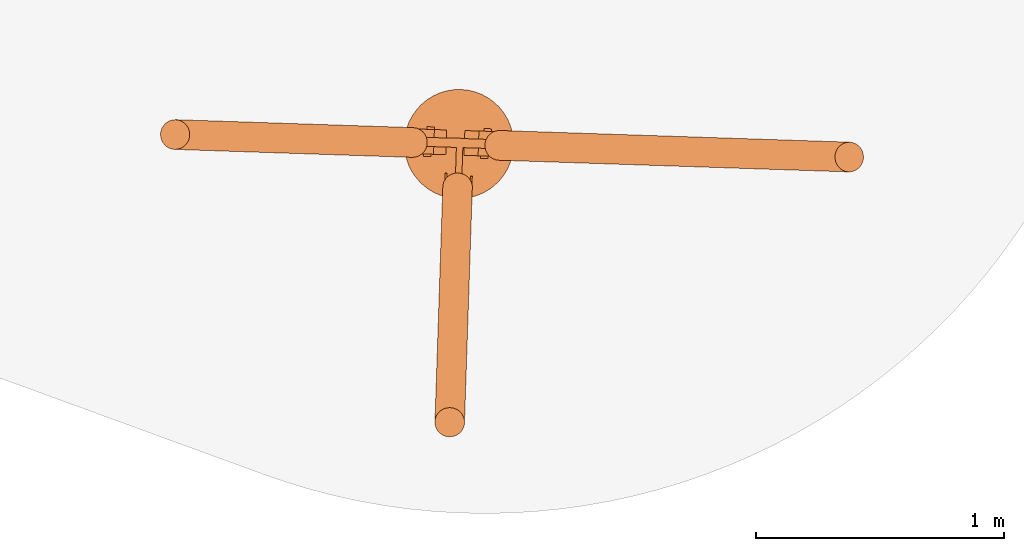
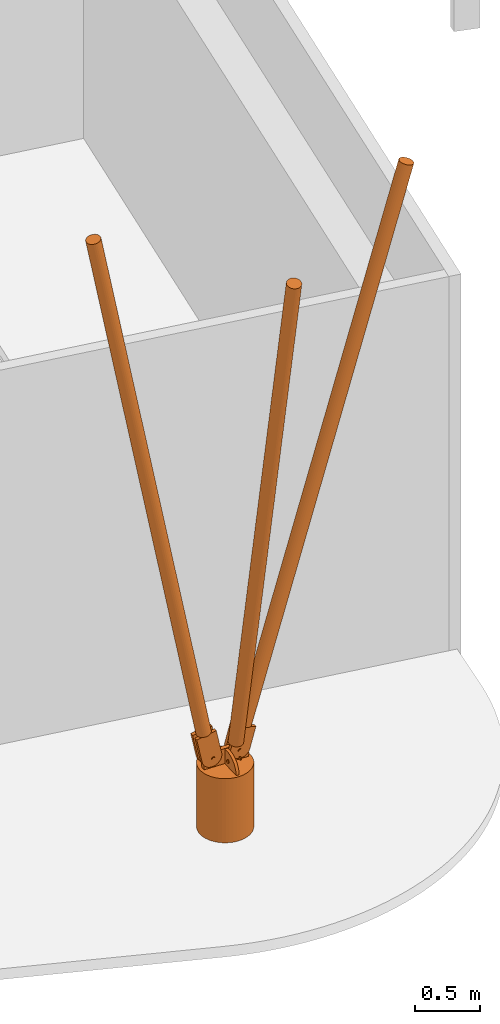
# One storey, part 21 of 21: 1 proxy.
"""IFC2X3 building model written with IfcOpenShell, lengths in millimetres."""

import ifcopenshell
import ifcopenshell.guid

model = None  # the IFC model being written
_history = None  # IfcOwnerHistory: only IFC2X3 demands one
_inside = {}  # id of a spatial element -> (the spatial element, [elements in it])
_under = {}  # id of a project, library or spatial element -> (it, [spatial elements below it])
_declared = {}  # id of a project -> (the project, [libraries it declares])
_typed = {}  # id of a type object -> (the type object, [elements of that type])
_made_of = {}  # id of a material, layer set ... -> (it, [elements and type objects made of it])


def new_model(schema):
    """Start an empty IFC model of exactly this schema.

    Asked for "IFC4X3", IfcOpenShell would pick the latest addendum, in which some entities
    have other attributes; the version numbers below select the first issue.
    IFC2X3 requires an IfcOwnerHistory on every rooted entity: one is made here for all.
    """
    global model, _history
    if schema == "IFC4X3":
        model = ifcopenshell.file(schema_version=(4, 3, 0, 0))
    else:
        model = ifcopenshell.file(schema=schema)
    _inside.clear()
    _under.clear()
    _declared.clear()
    _typed.clear()
    _made_of.clear()
    _history = None
    if model.schema == "IFC2X3":
        org = make("IfcOrganization", Name="unknown")
        user = make(
            "IfcPersonAndOrganization",
            ThePerson=make("IfcPerson", FamilyName="unknown"),
            TheOrganization=org,
        )
        app = make(
            "IfcApplication",
            ApplicationDeveloper=org,
            Version="unknown",
            ApplicationFullName="unknown",
            ApplicationIdentifier="unknown",
        )
        _history = make(
            "IfcOwnerHistory",
            OwningUser=user,
            OwningApplication=app,
            ChangeAction="ADDED",
            CreationDate=0,
        )
    return model


def make(cls, **values):
    """One entity of the class cls with the attributes given. An attribute that is None is left unset."""
    return model.create_entity(
        cls, **{name: value for name, value in values.items() if value is not None}
    )


def entity(cls, *values):
    """Any entity or typed value of the class cls, its attributes in the order of the schema. None: left unset."""
    e = model.create_entity(cls)
    for i, value in enumerate(values):
        if value is not None:
            e[i] = value
    return e


def rooted(cls, **values):
    """An entity with a GlobalId (a new one), such as an element, a storey or a relation."""
    return make(cls, GlobalId=ifcopenshell.guid.new(), OwnerHistory=_history, **values)


def si_unit(unit_type, name, prefix=None):
    """IfcSIUnit, for example si_unit("LENGTHUNIT", "METRE", prefix="MILLI")."""
    return make("IfcSIUnit", UnitType=unit_type, Prefix=prefix, Name=name)


def converted_unit(unit_type, name, factor, base, dimensions=None, offset=None):
    """IfcConversionBasedUnit, such as the inch: factor (a typed value) times the base unit."""
    return make(
        "IfcConversionBasedUnit"
        if offset is None
        else "IfcConversionBasedUnitWithOffset",
        ConversionOffset=offset,
        Dimensions=None
        if dimensions is None
        else entity("IfcDimensionalExponents", *dimensions),
        UnitType=unit_type,
        Name=name,
        ConversionFactor=make(
            "IfcMeasureWithUnit", ValueComponent=factor, UnitComponent=base
        ),
    )


def derived_unit(unit_type, elements):
    """IfcDerivedUnit: a product of units, each with its exponent."""
    return make(
        "IfcDerivedUnit",
        Elements=[
            make("IfcDerivedUnitElement", Unit=unit, Exponent=power)
            for unit, power in elements
        ],
        UnitType=unit_type,
    )


def assignment(units):
    """IfcUnitAssignment: the units of a project."""
    return None if units is None else make("IfcUnitAssignment", Units=units)


def point(xyz):
    """IfcCartesianPoint."""
    return None if xyz is None else make("IfcCartesianPoint", Coordinates=xyz)


def direction(xyz):
    """IfcDirection."""
    return None if xyz is None else make("IfcDirection", DirectionRatios=xyz)


def frame(location, z_axis=None, x_axis=None):
    """IfcAxis2Placement3D, a coordinate frame: its origin and axes. An axis left out is left unset."""
    return make(
        "IfcAxis2Placement3D",
        Location=point(location),
        Axis=direction(z_axis),
        RefDirection=direction(x_axis),
    )


def frame_2d(location, x_axis=None):
    """IfcAxis2Placement2D, a coordinate frame in the plane: its origin and x axis."""
    return make(
        "IfcAxis2Placement2D", Location=point(location), RefDirection=direction(x_axis)
    )


def origin():
    """The frame at (0, 0, 0) with its axes left unset."""
    return frame((0.0, 0.0, 0.0))


def origin_2d_with_axis():
    """The frame at (0, 0) in the plane with the x axis (1, 0) written out."""
    return frame_2d((0.0, 0.0), x_axis=(1.0, 0.0))


def place(relative_to, where):
    """IfcLocalPlacement: puts the frame where relative to a parent placement (None: the world)."""
    return make(
        "IfcLocalPlacement", PlacementRelTo=relative_to, RelativePlacement=where
    )


def context(
    kind, dimensions, precision=None, world=None, true_north=None, identifier=None
):
    """IfcGeometricRepresentationContext, for example the 3D "Model" context."""
    return make(
        "IfcGeometricRepresentationContext",
        ContextIdentifier=identifier,
        ContextType=kind,
        CoordinateSpaceDimension=dimensions,
        Precision=precision,
        WorldCoordinateSystem=world,
        TrueNorth=true_north,
    )


def subcontext(parent, identifier, kind, view, scale=None):
    """IfcGeometricRepresentationSubContext, for example "Body" below "Model"."""
    return make(
        "IfcGeometricRepresentationSubContext",
        ContextIdentifier=identifier,
        ContextType=kind,
        ParentContext=parent,
        TargetScale=scale,
        TargetView=view,
    )


def project(units=None, contexts=None):
    """IfcProject with its units and contexts."""
    return rooted(
        "IfcProject",
        Name="project",
        RepresentationContexts=contexts,
        UnitsInContext=assignment(units),
    )


def spatial(cls, under=None, at=None, **own):
    """A site, building, storey or space (cls), placed at a placement, below another one or the project."""
    s = rooted(cls, ObjectPlacement=at, **own)
    if under is not None:
        _under.setdefault(under.id(), (under, []))[1].append(s)
    return s


def polyline(points):
    """IfcPolyline through the points."""
    return make("IfcPolyline", Points=[point(p) for p in points])


def circle_curve(where, radius):
    """IfcCircle in the frame where."""
    return make("IfcCircle", Position=where, Radius=radius)


def parameter(value):
    """IfcParameterValue: where a trimmed curve begins or ends, as a parameter of its basis curve."""
    return model.create_entity("IfcParameterValue", value)


def trimmed(basis, trim1, trim2, sense, master):
    """IfcTrimmedCurve: the piece of a basis curve between two trims."""
    return make(
        "IfcTrimmedCurve",
        BasisCurve=basis,
        Trim1=trim1,
        Trim2=trim2,
        SenseAgreement=sense,
        MasterRepresentation=master,
    )


def segment(curve, same_sense, transition):
    """IfcCompositeCurveSegment."""
    return make(
        "IfcCompositeCurveSegment",
        Transition=transition,
        SameSense=same_sense,
        ParentCurve=curve,
    )


def composite_curve(segments, self_intersect=None):
    """IfcCompositeCurve: segments joined end to end."""
    return make("IfcCompositeCurve", Segments=segments, SelfIntersect=self_intersect)


def profile(cls, at=None, kind="AREA", **sizes):
    """A parametric profile (cls). Its sizes go by their IFC names, for example OverallWidth=200.0."""
    return make(cls, ProfileType=kind, Position=at, **sizes)


def circle(**sizes):
    """IfcCircleProfileDef."""
    return profile("IfcCircleProfileDef", **sizes)


def outline(outer, holes=None, kind="AREA"):
    """IfcArbitraryClosedProfileDef: a profile drawn as a closed curve; with holes, ...WithVoids."""
    if holes is None:
        return make("IfcArbitraryClosedProfileDef", ProfileType=kind, OuterCurve=outer)
    return make(
        "IfcArbitraryProfileDefWithVoids",
        ProfileType=kind,
        OuterCurve=outer,
        InnerCurves=holes,
    )


def extrude(swept, where, along, depth):
    """IfcExtrudedAreaSolid: the profile swept, set in the frame where, extruded along a direction by depth."""
    return make(
        "IfcExtrudedAreaSolid",
        SweptArea=swept,
        Position=where,
        ExtrudedDirection=direction(along),
        Depth=depth,
    )


def shape(context_of_items, identifier, shape_type, items):
    """IfcShapeRepresentation: the items that make up one representation, for example the "Body"."""
    return make(
        "IfcShapeRepresentation",
        ContextOfItems=context_of_items,
        RepresentationIdentifier=identifier,
        RepresentationType=shape_type,
        Items=items,
    )


def source(mapping_origin, context_of_items, identifier, shape_type, items):
    """IfcRepresentationMap: a shape defined once, which mapped items show again and again."""
    return make(
        "IfcRepresentationMap",
        MappingOrigin=mapping_origin,
        MappedRepresentation=shape(context_of_items, identifier, shape_type, items),
    )


def transform(
    local_origin,
    x_axis=None,
    y_axis=None,
    z_axis=None,
    scale=None,
    scale2=None,
    scale3=None,
    uniform=True,
):
    """IfcCartesianTransformationOperator3D, or its non-uniform kind. x_axis, y_axis, z_axis: its Axis1, 2, 3."""
    if uniform:
        return make(
            "IfcCartesianTransformationOperator3D",
            Axis1=direction(x_axis),
            Axis2=direction(y_axis),
            LocalOrigin=point(local_origin),
            Scale=scale,
            Axis3=direction(z_axis),
        )
    return make(
        "IfcCartesianTransformationOperator3DnonUniform",
        Axis1=direction(x_axis),
        Axis2=direction(y_axis),
        LocalOrigin=point(local_origin),
        Scale=scale,
        Axis3=direction(z_axis),
        Scale2=scale2,
        Scale3=scale3,
    )


def mapped(mapping_source, mapping_target):
    """IfcMappedItem: shows the shape of a source again, moved by a transform."""
    return make(
        "IfcMappedItem", MappingSource=mapping_source, MappingTarget=mapping_target
    )


def material(Name=None, Category=None):
    """IfcMaterial."""
    return make("IfcMaterial", Name=Name, Category=Category)


def material_list(materials):
    """IfcMaterialList."""
    return make("IfcMaterialList", Materials=materials)


def made_of(thing, what):
    """Note that an element or type object is made of a material, layer set ...; save() writes the relation."""
    if what is not None:
        _made_of.setdefault(what.id(), (what, []))[1].append(thing)
    return thing


def type_object(cls, material=None, **own):
    """A type object (cls), such as IfcWallType, which elements share."""
    return made_of(rooted(cls, **own), material)


def type_shapes(of_type, sources):
    """Give a type object the sources (RepresentationMaps) that its elements show as mapped items."""
    of_type.RepresentationMaps = sources


def element(
    cls,
    number,
    at=None,
    inside=None,
    cuts=None,
    type_object=None,
    material=None,
    context=None,
    identifier="Body",
    shape_type=None,
    held_by="IfcProductDefinitionShape",
    body=None,
    shapes=None,
    **own,
):
    """One element of the class cls, such as IfcWall. Its Tag is "e" and its number.

    at: its placement. inside: the storey or other place that contains it. cuts: it is an
    opening in that element (IfcRelVoidsElement). A single representation is given by context,
    identifier, shape_type and body (its items); several are given by shapes. held_by: the class
    of the entity that holds the representations. save() writes the other relations.
    """
    e = rooted(cls, Tag="e%d" % number, ObjectPlacement=at, **own)
    if body is not None:
        shapes = [shape(context, identifier, shape_type, body)]
    if shapes is not None:
        e.Representation = make(held_by, Representations=shapes)
    if inside is not None:
        _inside.setdefault(inside.id(), (inside, []))[1].append(e)
    if cuts is not None:
        rooted(
            "IfcRelVoidsElement", RelatingBuildingElement=cuts, RelatedOpeningElement=e
        )
    if type_object is not None:
        _typed.setdefault(type_object.id(), (type_object, []))[1].append(e)
    return made_of(e, material)


def aggregate(whole, parts):
    """IfcRelAggregates: a whole, such as a stair, and the parts it consists of."""
    return rooted("IfcRelAggregates", RelatingObject=whole, RelatedObjects=parts)


def save(model, path):
    """Write the relations noted so far, then the file.

    IfcRelAggregates (storeys below a building ...), IfcRelContainedInSpatialStructure (elements
    in a storey), IfcRelDefinesByType, IfcRelAssociatesMaterial and IfcRelDeclares: one each for
    every whole, place, type object, material and project.
    """
    for whole, parts in _under.values():
        aggregate(whole, parts)
    for where, things in _inside.values():
        rooted(
            "IfcRelContainedInSpatialStructure",
            RelatedElements=things,
            RelatingStructure=where,
        )
    for kind, things in _typed.values():
        rooted("IfcRelDefinesByType", RelatedObjects=things, RelatingType=kind)
    for what, things in _made_of.values():
        rooted("IfcRelAssociatesMaterial", RelatedObjects=things, RelatingMaterial=what)
    for by, libraries in _declared.values():
        rooted("IfcRelDeclares", RelatingContext=by, RelatedDefinitions=libraries)
    model.write(path)


model = new_model("IFC2X3")

# Units and contexts
model_context = context("Model", 3, precision=0.01, world=origin(), true_north=direction((6.12303176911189e-17, 1.0)))
body_context = subcontext(model_context, "Body", "Model", "MODEL_VIEW")
ifc_project = project(units=[si_unit("LENGTHUNIT", "METRE", prefix="MILLI"), si_unit("AREAUNIT", "SQUARE_METRE"), si_unit("VOLUMEUNIT", "CUBIC_METRE"), converted_unit("PLANEANGLEUNIT", "DEGREE", entity("IfcRatioMeasure", 0.0174532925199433), si_unit("PLANEANGLEUNIT", "RADIAN"), dimensions=[0, 0, 0, 0, 0, 0, 0]), si_unit("MASSUNIT", "GRAM", prefix="KILO"), derived_unit("MASSDENSITYUNIT", [(si_unit("MASSUNIT", "GRAM", prefix="KILO"), 1), (si_unit("LENGTHUNIT", "METRE"), -3)]), si_unit("TIMEUNIT", "SECOND"), si_unit("FREQUENCYUNIT", "HERTZ"), si_unit("THERMODYNAMICTEMPERATUREUNIT", "DEGREE_CELSIUS"), derived_unit("THERMALTRANSMITTANCEUNIT", [(si_unit("MASSUNIT", "GRAM", prefix="KILO"), 1), (si_unit("THERMODYNAMICTEMPERATUREUNIT", "KELVIN"), -1), (si_unit("TIMEUNIT", "SECOND"), -3)]), derived_unit("VOLUMETRICFLOWRATEUNIT", [(si_unit("LENGTHUNIT", "METRE"), 3), (si_unit("TIMEUNIT", "SECOND"), -1)]), si_unit("ELECTRICCURRENTUNIT", "AMPERE"), si_unit("ELECTRICVOLTAGEUNIT", "VOLT"), si_unit("POWERUNIT", "WATT"), si_unit("FORCEUNIT", "NEWTON", prefix="KILO"), si_unit("ILLUMINANCEUNIT", "LUX"), si_unit("LUMINOUSFLUXUNIT", "LUMEN"), si_unit("LUMINOUSINTENSITYUNIT", "CANDELA"), derived_unit("USERDEFINED", [(si_unit("MASSUNIT", "GRAM", prefix="KILO"), -1), (si_unit("LENGTHUNIT", "METRE"), -2), (si_unit("TIMEUNIT", "SECOND"), 3), (si_unit("LUMINOUSFLUXUNIT", "LUMEN"), 1)]), derived_unit("LINEARVELOCITYUNIT", [(si_unit("LENGTHUNIT", "METRE"), 1), (si_unit("TIMEUNIT", "SECOND"), -1)]), si_unit("PRESSUREUNIT", "PASCAL"), derived_unit("USERDEFINED", [(si_unit("LENGTHUNIT", "METRE"), -2), (si_unit("MASSUNIT", "GRAM", prefix="KILO"), 1), (si_unit("TIMEUNIT", "SECOND"), -2)])], contexts=[model_context])

# Site, building, storey
site_placement = place(None, origin())
site = spatial("IfcSite", under=ifc_project, at=site_placement, Name="<Kadaster Gemeente>;<Kadaster nummer>;<Kadaster sectie>", CompositionType="ELEMENT")
building_placement = place(site_placement, origin())
building = spatial("IfcBuilding", under=site, at=building_placement, Name="JRCZ Middelburg", CompositionType="ELEMENT")
storey_placement = place(building_placement, origin())
storey = spatial("IfcBuildingStorey", under=building, at=storey_placement, Name="00 begane grond", CompositionType="ELEMENT", Elevation=0.0)

# Proxy
ifc_material_1 = material(Name="Staal")
ifc_material_2 = material(Name="Beton")
ifc_material_list_1 = material_list([ifc_material_1, ifc_material_2])
ifc_material_list_2 = material_list([ifc_material_1, ifc_material_2])
building_element_proxy_type = type_object("IfcBuildingElementProxyType", Name="Kolommen", PredefinedType="NOTDEFINED", material=ifc_material_list_2)
shared_shape = source(origin(), body_context, "Body", "SweptSolid", [
    extrude(outline(composite_curve([segment(polyline([(-77.5219151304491, -100.362729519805), (77.5725642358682, -100.362729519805)]), True, "CONTINUOUS"), segment(polyline([(77.5725642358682, -100.362729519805), (77.5725642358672, 99.0100214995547)]), True, "CONTINUOUS"), segment(trimmed(circle_curve(frame_2d((-0.0489361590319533, 99.0100214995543), x_axis=(-0.981627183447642, -0.190808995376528)), 77.5202021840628), [parameter(169.000000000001)], [parameter(346.999999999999)], True, "PARAMETER"), True, "CONTINUOUS"), segment(polyline([(-77.5219151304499, 101.715437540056), (-77.5219151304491, -100.362729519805)]), True, "CONTINUOUS")], self_intersect=False)), frame((-157.047506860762, -50.0, 804.451228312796), z_axis=(0.0, 1.0, 0.0), x_axis=(0.981627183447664, 0.0, 0.190808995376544)), (0.0, 0.0, 1.0), 33.9987515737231),
    extrude(circle(Radius=15.0, at=origin_2d_with_axis()), frame((-54.4696170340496, -103.594118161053, 706.16949538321), z_axis=(1.0, 0.0, 0.0), x_axis=(0.0, -1.0, 0.0)), (0.0, 0.0, 1.0), 9.59587154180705),
    extrude(circle(Radius=15.0, at=origin_2d_with_axis()), frame((-54.4696170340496, 126.405881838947, 706.169495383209), z_axis=(1.0, 0.0, 0.0), x_axis=(0.0, -1.0, 0.0)), (0.0, 0.0, 1.0), 9.59587154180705),
    extrude(circle(Radius=15.0, at=origin_2d_with_axis()), frame((55.0, -113.800552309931, 720.960203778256), z_axis=(1.0, 0.0, 0.0), x_axis=(0.0, -1.0, 0.0)), (0.0, 0.0, 1.0), 10.668628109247),
    extrude(circle(Radius=15.0, at=origin_2d_with_axis()), frame((55.0, 116.199447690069, 720.960203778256), z_axis=(1.0, 0.0, 0.0), x_axis=(0.0, -1.0, 0.0)), (0.0, 0.0, 1.0), 10.668628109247),
    extrude(outline(composite_curve([segment(polyline([(-103.664111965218, -86.2493471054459), (105.169599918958, -86.2493471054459)]), True, "CONTINUOUS"), segment(polyline([(105.169599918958, -86.2493471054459), (102.158624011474, 86.2493471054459)]), True, "CONTINUOUS"), segment(polyline([(102.158624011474, 86.2493471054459), (-103.664111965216, 86.2493471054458)]), True, "CONTINUOUS"), segment(trimmed(circle_curve(frame_2d((-95.2770692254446, 0.0), x_axis=(-0.207911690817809, 0.978147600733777)), 86.6561732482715), [parameter(353.554082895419)], [parameter(162.445917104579)], True, "PARAMETER"), True, "CONTINUOUS")], self_intersect=False)), frame((22.5362302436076, -133.676471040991, 807.841665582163), z_axis=(1.0, 0.0, 0.0), x_axis=(0.0, -0.266523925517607, 0.963828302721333)), (0.0, 0.0, 1.0), 32.4637697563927),
    extrude(outline(composite_curve([segment(polyline([(-118.666408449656, -86.2493471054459), (120.171896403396, -86.249347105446)]), True, "CONTINUOUS"), segment(polyline([(120.171896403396, -86.249347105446), (117.160920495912, 86.2493471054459)]), True, "CONTINUOUS"), segment(polyline([(117.160920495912, 86.2493471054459), (-118.666408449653, 86.2493471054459)]), True, "CONTINUOUS"), segment(trimmed(circle_curve(frame_2d((-110.279365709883, 0.0), x_axis=(-0.207911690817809, 0.978147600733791)), 86.6561732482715), [parameter(353.554082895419)], [parameter(162.445917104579)], True, "PARAMETER"), True, "CONTINUOUS")], self_intersect=False)), frame((22.5362302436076, 161.188523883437, 824.784514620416), z_axis=(1.0, 0.0, 0.0), x_axis=(0.0, 0.207911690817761, 0.978147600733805)), (0.0, 0.0, 1.0), 32.4637697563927),
    extrude(outline(composite_curve([segment(polyline([(-103.671089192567, -86.2493471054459), (105.176577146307, -86.2493471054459)]), True, "CONTINUOUS"), segment(polyline([(105.176577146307, -86.2493471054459), (102.165601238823, 86.2493471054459)]), True, "CONTINUOUS"), segment(polyline([(102.165601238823, 86.2493471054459), (-103.671089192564, 86.249347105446)]), True, "CONTINUOUS"), segment(trimmed(circle_curve(frame_2d((-95.2840464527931, 0.0), x_axis=(-0.207911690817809, 0.978147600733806)), 86.6561732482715), [parameter(353.554082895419)], [parameter(162.445917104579)], True, "PARAMETER"), True, "CONTINUOUS")], self_intersect=False)), frame((-44.8737454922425, -133.678330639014, 807.848390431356), z_axis=(1.0, 0.0, 0.0), x_axis=(0.0, -0.266523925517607, 0.963828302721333)), (0.0, 0.0, 1.0), 30.7614069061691),
    extrude(outline(composite_curve([segment(polyline([(-118.666408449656, -86.2493471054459), (120.171896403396, -86.249347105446)]), True, "CONTINUOUS"), segment(polyline([(120.171896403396, -86.249347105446), (117.160920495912, 86.2493471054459)]), True, "CONTINUOUS"), segment(polyline([(117.160920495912, 86.2493471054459), (-118.666408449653, 86.2493471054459)]), True, "CONTINUOUS"), segment(trimmed(circle_curve(frame_2d((-110.279365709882, 0.0), x_axis=(-0.207911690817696, 0.97814760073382)), 86.6561732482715), [parameter(353.554082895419)], [parameter(162.445917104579)], True, "PARAMETER"), True, "CONTINUOUS")], self_intersect=False)), frame((-44.8737454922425, 161.188523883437, 824.784514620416), z_axis=(1.0, 0.0, 0.0), x_axis=(0.0, 0.207911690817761, 0.978147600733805)), (0.0, 0.0, 1.0), 30.7614069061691),
    extrude(outline(composite_curve([segment(trimmed(circle_curve(frame_2d((-81.8584253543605, 43.7085069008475), x_axis=(1.0, 0.0)), 113.708506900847), [parameter(166.631188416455)], [parameter(270.0)], True, "PARAMETER"), True, "CONTINUOUS"), segment(polyline([(-81.8584253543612, -70.0), (81.8584253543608, -70.0)]), True, "CONTINUOUS"), segment(trimmed(circle_curve(frame_2d((81.8584253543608, 43.7085069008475), x_axis=(-1.0, 0.0)), 113.708506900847), [parameter(90.0000000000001)], [parameter(193.368811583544)], True, "PARAMETER"), True, "CONTINUOUS"), segment(polyline([(192.485645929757, 70.0), (-192.485645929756, 70.0)]), True, "CONTINUOUS")], self_intersect=False)), frame((-14.1123385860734, -2.97583321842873, 670.0), z_axis=(1.0, 0.0, 0.0), x_axis=(0.0, -1.0, 0.0)), (0.0, 0.0, 1.0), 37.5362302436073),
    extrude(circle(Radius=60.0, at=frame_2d((8.626698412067e-16, -2.59703140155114e-13), x_axis=(1.0, 0.0))), frame((0.0, -1573.6753433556, 5704.13014853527), z_axis=(0.0, 0.28233207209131, -0.959316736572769), x_axis=(1.0, 0.0, 0.0)), (0.0, 0.0, 1.0), 5000.0),
    extrude(circle(Radius=15.0, at=frame_2d((0.0, -1.35358391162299e-13), x_axis=(1.0, 0.0))), frame((-142.876062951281, -57.9256867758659, 707.681947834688), z_axis=(0.0, 1.0, 0.0), x_axis=(1.0, 0.0, 0.0)), (0.0, 0.0, 1.0), 7.92568677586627),
    extrude(circle(Radius=15.0, at=frame_2d((0.0, -1.35358391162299e-13), x_axis=(1.0, 0.0))), frame((-134.21100297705, 43.8026833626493, 705.345812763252), z_axis=(0.0, 1.0, 0.0), x_axis=(1.0, 0.0, 0.0)), (0.0, 0.0, 1.0), 7.92568677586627),
    extrude(outline(composite_curve([segment(polyline([(-77.5219151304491, -100.362729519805), (77.5725642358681, -100.362729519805)]), True, "CONTINUOUS"), segment(polyline([(77.5725642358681, -100.362729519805), (77.5725642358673, 99.0100214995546)]), True, "CONTINUOUS"), segment(trimmed(circle_curve(frame_2d((-0.0489361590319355, 99.0100214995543), x_axis=(-0.981627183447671, -0.190808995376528)), 77.5202021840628), [parameter(169.000000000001)], [parameter(346.999999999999)], True, "PARAMETER"), True, "CONTINUOUS"), segment(polyline([(-77.5219151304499, 101.715437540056), (-77.5219151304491, -100.362729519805)]), True, "CONTINUOUS")], self_intersect=False)), frame((-157.047506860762, 10.0495819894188, 804.451228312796), z_axis=(0.0, 1.0, 0.0), x_axis=(0.981627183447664, 0.0, 0.190808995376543)), (0.0, 0.0, 1.0), 33.7531013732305),
    extrude(outline(composite_curve([segment(trimmed(circle_curve(frame_2d((12.6830837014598, 71.963066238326), x_axis=(1.0, 0.0)), 139.999999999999), [parameter(181.607002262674)], [parameter(270.0)], True, "PARAMETER"), True, "CONTINUOUS"), segment(polyline([(12.6830837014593, -68.0369337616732), (57.2893849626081, -68.0369337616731)]), True, "CONTINUOUS"), segment(polyline([(57.2893849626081, -68.0369337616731), (57.2893849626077, 68.0369337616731)]), True, "CONTINUOUS"), segment(polyline([(57.2893849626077, 68.0369337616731), (-127.261853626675, 68.0369337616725)]), True, "CONTINUOUS")], self_intersect=False)), frame((-71.4017235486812, -16.0012484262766, 668.036933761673), z_axis=(0.0, 1.0, 0.0), x_axis=(1.0, 0.0, 0.0)), (0.0, 0.0, 1.0), 26.0508304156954),
    extrude(circle(Radius=220.0, at=frame_2d((-1.58856450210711e-14, -3.55419806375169e-13), x_axis=(1.0, 0.0))), origin(), (0.0, 0.0, 1.0), 600.0),
    extrude(circle(Radius=60.0, at=frame_2d((6.01112009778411e-29, -2.32525083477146e-13), x_axis=(1.0, 0.0))), frame((0.0, 186.992815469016, 940.637708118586), z_axis=(0.0, 0.190808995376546, 0.981627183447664), x_axis=(1.0, 0.0, 0.0)), (0.0, 0.0, 1.0), 5020.0),
    extrude(circle(Radius=60.0, at=frame_2d((0.0, -7.62621173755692e-14), x_axis=(1.0, 0.0))), frame((-175.544275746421, 0.0, 903.097008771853), z_axis=(-0.190808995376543, 0.0, 0.981627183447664), x_axis=(0.981627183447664, 0.0, 0.190808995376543)), (0.0, 0.0, 1.0), 4960.0),
])
type_shapes(building_element_proxy_type, [shared_shape])
proxy_placement = place(storey_placement, frame((26390.9381280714, 4166.78652639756, 39.9994237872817), z_axis=(0.0, 0.0, 1.0), x_axis=(0.0333364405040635, 0.999444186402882, 0.0)))
element("IfcBuildingElementProxy", 1, at=proxy_placement, inside=storey, type_object=building_element_proxy_type, material=ifc_material_list_1, Name="Kolommen:Kolommen", ObjectType="Kolommen:Kolommen", context=body_context, shape_type="MappedRepresentation", body=[
    mapped(shared_shape, transform((0.0, 0.0, 0.0), scale=1.0)),
])

save(model, "model.ifc")
